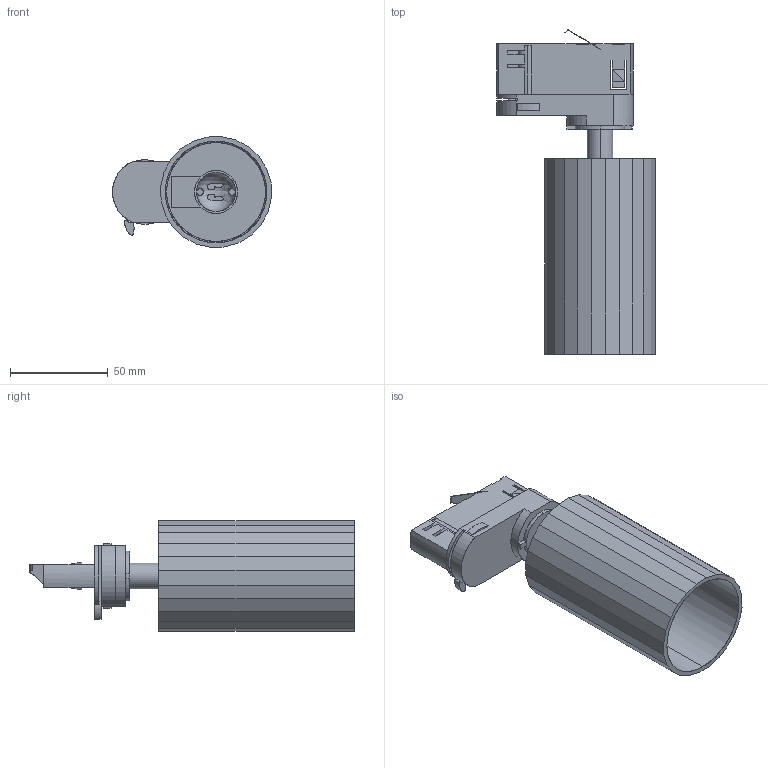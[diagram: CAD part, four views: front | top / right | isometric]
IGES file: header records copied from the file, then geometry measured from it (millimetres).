
Start section: SolidWorks IGES file using analytic representation for surfaces
Global section: file name: C:\Users\danielet\Desktop\ISMAIL\MODRIAN-T3951080-3D\MODRIAN-T3951080-3D.IGS; native system: SolidWorks 2018; preprocessor: SolidWorks 2018; author: danielet; date: 230313.100131; units: millimetre
Bounding box: 81.36 x 166.08 x 56.72 mm (x, y, z)
Surface area: 68099.3 mm2 (no closed solid volume)
Topology: 0 solids, 0 shells, 237 faces, 3675 edges, 3673 vertices
Faces by surface type: bspline 168, revolution 69
